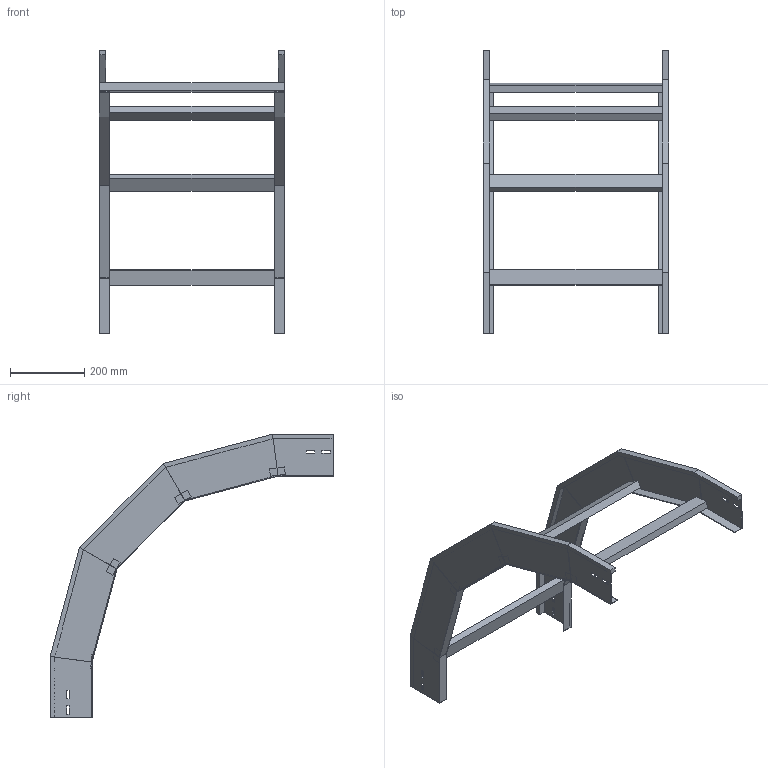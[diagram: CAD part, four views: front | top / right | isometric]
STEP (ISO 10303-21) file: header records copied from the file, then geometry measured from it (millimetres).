
FILE_DESCRIPTION (( 'STEP AP214' ), '1' );
FILE_NAME ('33B5J500.step', '2025-02-21T15:03:06', ( '' ), ( '' ), 'SwSTEP 2.0', 'SolidWorks 2023', '' );
FILE_SCHEMA (( 'AUTOMOTIVE_DESIGN' ));
Length unit declared in the file: millimetre
Products named in the file (3): TRAVERSINO_500; LONGH.DISCESA_90°_H112.5_R500; 33B5J500
Assembly tree (6 placements, depth 2):
  33B5J500
    LONGH.DISCESA_90°_H112.5_R500  x2
    TRAVERSINO_500  x4
Bounding box: 500 x 762.85 x 762.85 mm (x, y, z)
Volume: 2716482 mm3; surface area: 969003.5 mm2
Topology: 6 solids, 6 shells, 140 faces, 320 edges, 192 vertices
Faces by surface type: plane 140
Entity records: 1872 total; most frequent: CARTESIAN_POINT 309, ORIENTED_EDGE 296, DIRECTION 294, VECTOR 148, LINE 148, EDGE_CURVE 148, VERTEX_POINT 88, AXIS2_PLACEMENT_3D 73
